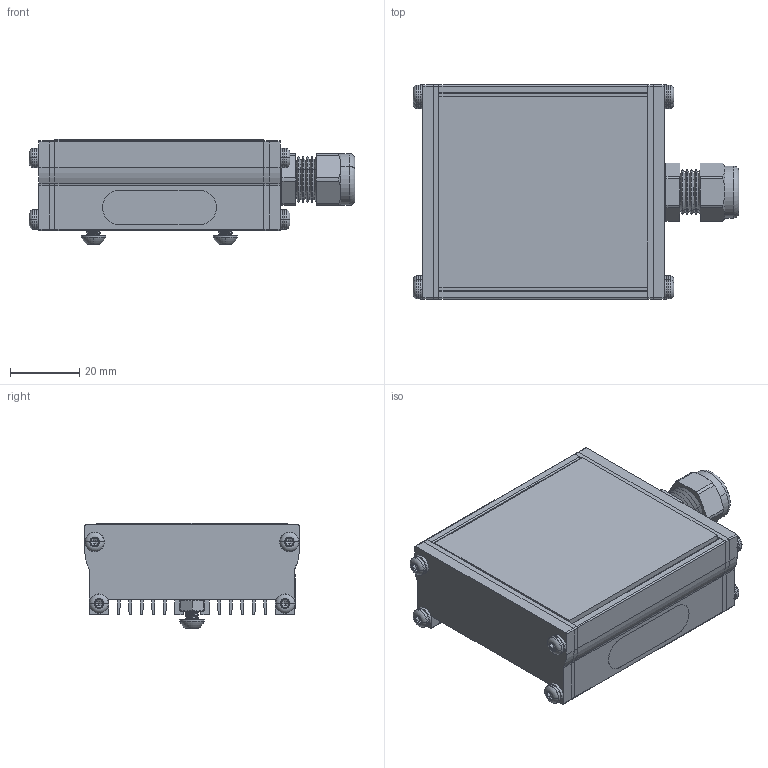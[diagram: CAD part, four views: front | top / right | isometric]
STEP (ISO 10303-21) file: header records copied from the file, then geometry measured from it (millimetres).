
FILE_DESCRIPTION (( 'STEP AP214' ), '1' );
FILE_NAME ('SL147_Default.stp', '2021-05-17T12:54:55', ( '' ), ( '' ), 'SwSTEP 2.0', 'SolidWorks 2018', '' );
FILE_SCHEMA (( 'AUTOMOTIVE_DESIGN' ));
Length unit declared in the file: inch
Products named in the file (16): 9262K127; 091542-02; 091104; 091105; 091117-02; BH-M4x6; 093470_DEFAULT; HN-M4_90592A016; SL147_Default; 091541; CD07AA-BK; 091052; 90295A360_90295A360; 10mm Label_Default<As Machined>; 093658_093658; NP-07-BR_Default<As Machined>
Assembly tree (33 placements, depth 3):
  SL147_Default
    091117-02
    093470_DEFAULT  x2
    091541  x2
    091104
    CD07AA-BK
    9262K127
    NP-07-BR_Default<As Machined>
    90295A360_90295A360  x8
    093658_093658  x8
    091542-02
    091105
    HN-M4_90592A016  x2
    BH-M4x6  x2
    091052
      10mm Label_Default<As Machined>
Bounding box: 94.11 x 61.91 x 30.43 mm (x, y, z)
Volume: 42550.9 mm3; surface area: 50848.9 mm2
Topology: 33 solids, 33 shells, 1864 faces, 4936 edges, 3086 vertices
Faces by surface type: cylinder 1120, cone 334, plane 310, torus 64, bspline 36
Entity records: 29303 total; most frequent: CARTESIAN_POINT 9456, ORIENTED_EDGE 4076, DIRECTION 3985, EDGE_CURVE 2038, AXIS2_PLACEMENT_3D 1496, VERTEX_POINT 1294, LINE 993, VECTOR 993
